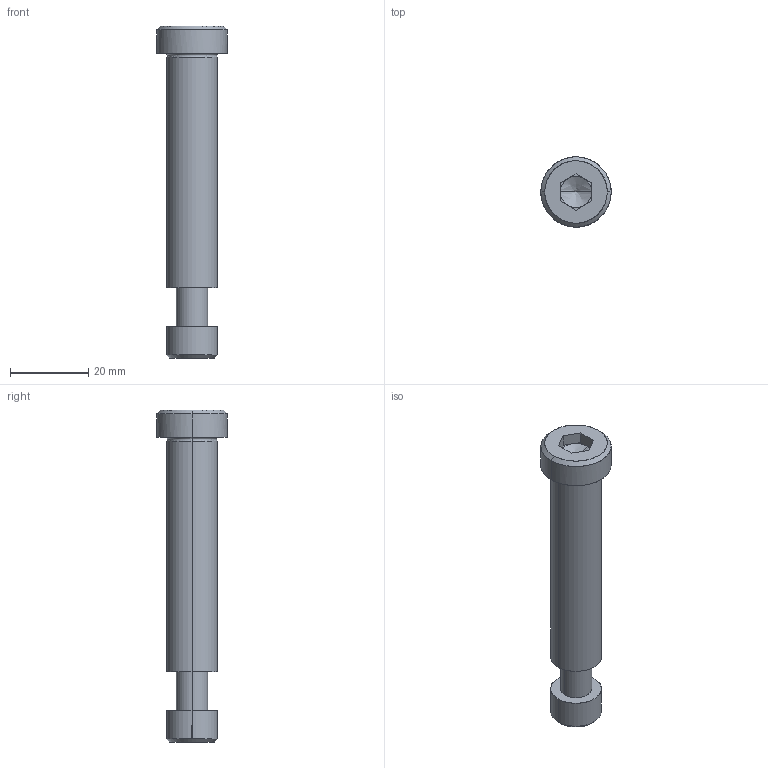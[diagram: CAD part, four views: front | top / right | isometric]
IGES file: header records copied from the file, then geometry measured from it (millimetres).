
Global section: file name: E:\UnigraphicsGraphicData\MISUMI_PRESS-PARTS\IGES\3d_sbtc13-60_05100_r00.igs; native system: NX V5.0; preprocessor: UGS NX IGES V5.0; author: MISUMI; date: 20110105.162446; units: millimetre
Bounding box: 18 x 18 x 85 mm (x, y, z)
Surface area: 5109.6 mm2 (no closed solid volume)
Topology: 0 solids, 0 shells, 52 faces, 286 edges, 282 vertices
Faces by surface type: bspline 52
